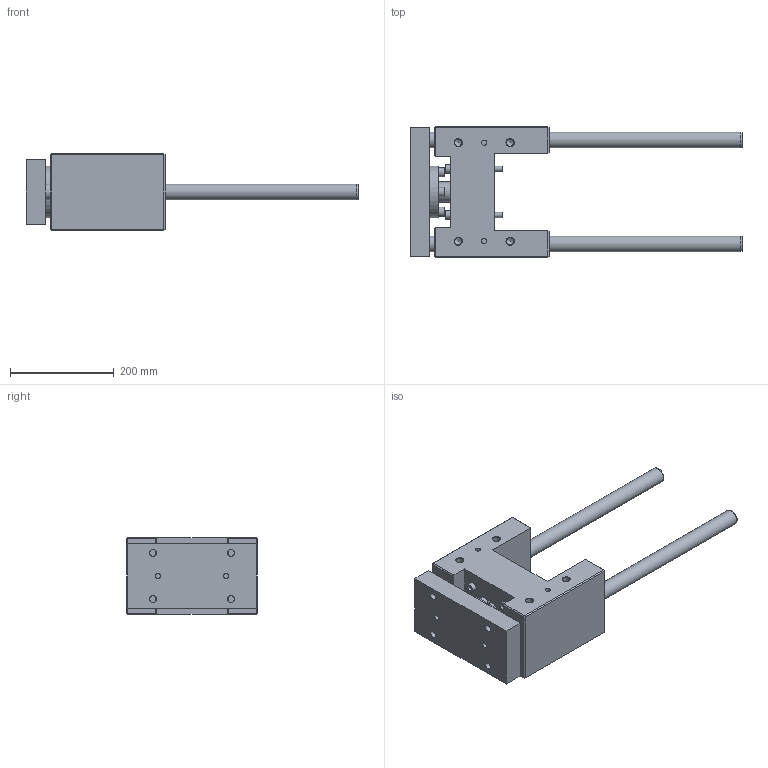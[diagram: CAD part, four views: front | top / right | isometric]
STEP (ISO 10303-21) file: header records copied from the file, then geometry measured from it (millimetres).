
FILE_DESCRIPTION( ( 'STEP AP214' ), '1' );
FILE_NAME( 'U:/Etudes/Top Solid/BIBLIO 3D AVM/TOP/PNEUMATIQUE/GUIDAGES/Type 32 (en H)/R_Renforcée/329R6230.step', '2005-05-27T09:25:44', ( ' ' ), ( ' ' ), 'XStep 1.0', ' ', ' ' );
FILE_SCHEMA( ( 'automotive_design' ) );
Length unit declared in the file: metre
Products named in the file (2): 1; 2
Bounding box: 640 x 252 x 148 mm (x, y, z)
Volume: 6828031.9 mm3; surface area: 574695.9 mm2
Topology: 2 solids, 7 shells, 239 faces, 527 edges, 341 vertices
Faces by surface type: plane 149, cylinder 69, cone 21
Full cylindrical faces by diameter (mm): 10 x12, 10.106 x4, 11 x4, 12 x8, 13 x8, 13.835 x8, 16 x4, 18 x4, 18.376 x2, 20 x4, 30 x4, 39 x1, 42 x1, 55 x1, 57 x1, 60 x1, 65 x1, 100 x1
Entity records: 7933 total; most frequent: CARTESIAN_POINT 1201, DIRECTION 1000, ORIENTED_EDGE 786, EDGE_CURVE 393, EDGE_LOOP 392, AXIS2_PLACEMENT_3D 374, FACE_OUTER_BOUND 308, VERTEX_POINT 303
